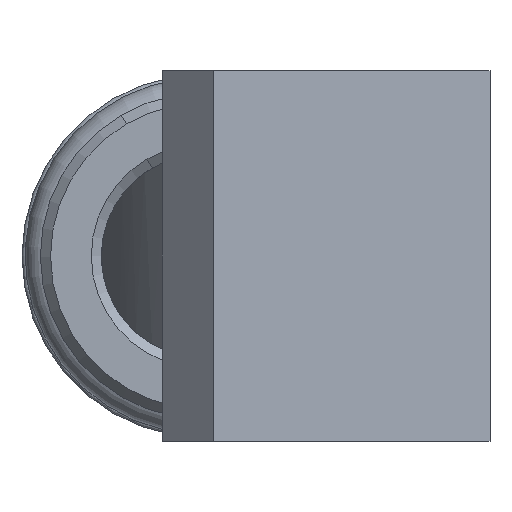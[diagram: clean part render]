
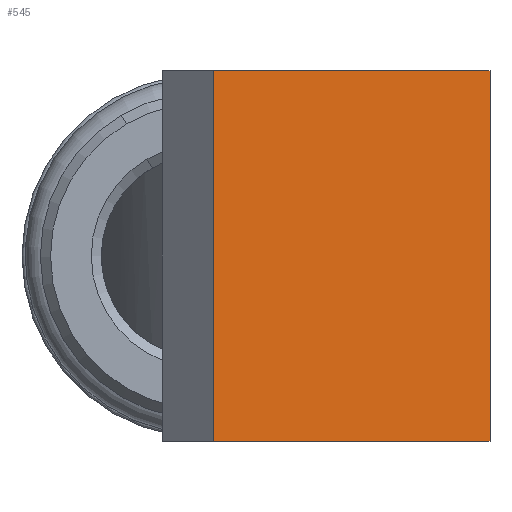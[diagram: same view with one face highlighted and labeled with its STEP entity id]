
A CAD part, left-side view. The second image highlights one B-rep face of the part: STEP entity #545.
In plain terms, the highlighted planar face has unit normal (-0.997, -0.084, 0).
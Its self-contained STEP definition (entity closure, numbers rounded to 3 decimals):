
#124 = CARTESIAN_POINT ( 'NONE',  ( -158.251, -193.973, -15. ) ) ;
#229 = ORIENTED_EDGE ( 'NONE', *, *, #3720, .F. ) ;
#234 = VECTOR ( 'NONE', #2403, 1000. ) ;
#235 = DIRECTION ( 'NONE',  ( 0., 0., 1. ) ) ;
#286 = LINE ( 'NONE', #3553, #2004 ) ;
#334 = CARTESIAN_POINT ( 'NONE',  ( -173.357, -14.062, 9.1 ) ) ;
#383 = DIRECTION ( 'NONE',  ( 0., 0., 1. ) ) ;
#545 = ADVANCED_FACE ( 'NONE', ( #585 ), #3330, .T. ) ;
#585 = FACE_OUTER_BOUND ( 'NONE', #2795, .T. ) ;
#700 = VERTEX_POINT ( 'NONE', #2788 ) ;
#712 = DIRECTION ( 'NONE',  ( 0.084, -0.996, 0. ) ) ;
#725 = ORIENTED_EDGE ( 'NONE', *, *, #1527, .T. ) ;
#735 = LINE ( 'NONE', #3263, #234 ) ;
#759 = DIRECTION ( 'NONE',  ( -0.084, 0.996, 0. ) ) ;
#980 = CARTESIAN_POINT ( 'NONE',  ( -173.357, -14.062, -9.1 ) ) ;
#1273 = EDGE_CURVE ( 'NONE', #2983, #3603, #286, .T. ) ;
#1360 = CARTESIAN_POINT ( 'NONE',  ( -158.251, -193.973, 9.1 ) ) ;
#1408 = VECTOR ( 'NONE', #759, 1000. ) ;
#1527 = EDGE_CURVE ( 'NONE', #3603, #3037, #3401, .T. ) ;
#1549 = ORIENTED_EDGE ( 'NONE', *, *, #3341, .F. ) ;
#1815 = LINE ( 'NONE', #1938, #2413 ) ;
#1922 = AXIS2_PLACEMENT_3D ( 'NONE', #124, #2465, #712 ) ;
#1938 = CARTESIAN_POINT ( 'NONE',  ( -174.496, -0.496, -15. ) ) ;
#2004 = VECTOR ( 'NONE', #383, 1000. ) ;
#2403 = DIRECTION ( 'NONE',  ( -0.084, 0.996, 0. ) ) ;
#2413 = VECTOR ( 'NONE', #235, 1000. ) ;
#2465 = DIRECTION ( 'NONE',  ( -0.996, -0.084, 0. ) ) ;
#2788 = CARTESIAN_POINT ( 'NONE',  ( -174.496, -0.496, -9.1 ) ) ;
#2795 = EDGE_LOOP ( 'NONE', ( #229, #2844, #725, #1549 ) ) ;
#2844 = ORIENTED_EDGE ( 'NONE', *, *, #1273, .T. ) ;
#2983 = VERTEX_POINT ( 'NONE', #980 ) ;
#3037 = VERTEX_POINT ( 'NONE', #3272 ) ;
#3263 = CARTESIAN_POINT ( 'NONE',  ( -158.251, -193.973, -9.1 ) ) ;
#3272 = CARTESIAN_POINT ( 'NONE',  ( -174.496, -0.496, 9.1 ) ) ;
#3330 = PLANE ( 'NONE',  #1922 ) ;
#3341 = EDGE_CURVE ( 'NONE', #700, #3037, #1815, .T. ) ;
#3401 = LINE ( 'NONE', #1360, #1408 ) ;
#3553 = CARTESIAN_POINT ( 'NONE',  ( -173.357, -14.062, -15. ) ) ;
#3603 = VERTEX_POINT ( 'NONE', #334 ) ;
#3720 = EDGE_CURVE ( 'NONE', #2983, #700, #735, .T. ) ;
